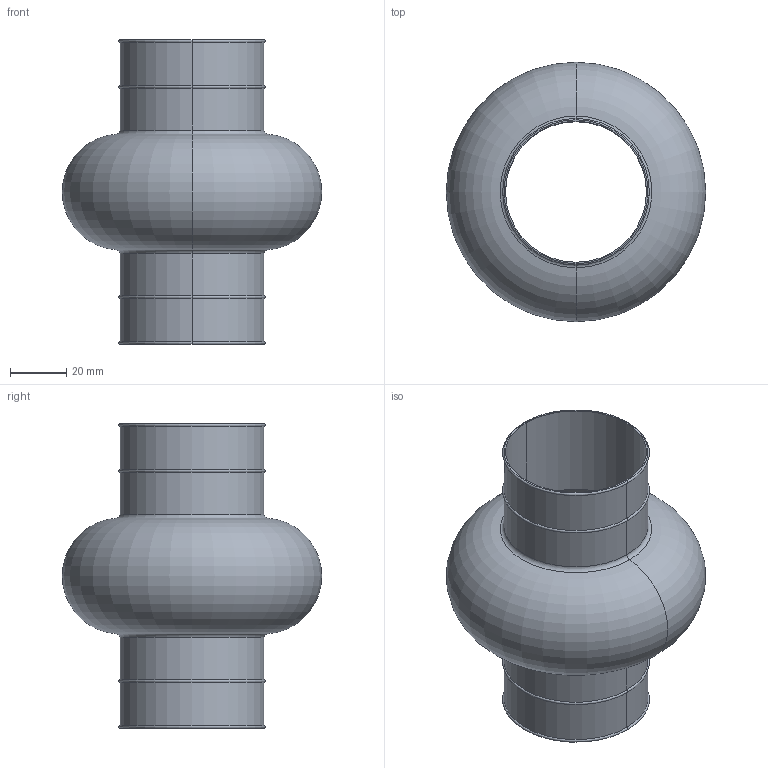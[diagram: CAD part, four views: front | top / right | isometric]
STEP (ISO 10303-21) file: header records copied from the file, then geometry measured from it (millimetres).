
FILE_DESCRIPTION (( 'STEP AP203' ), '1' );
FILE_NAME ('65280.W0050.step', '2018-06-20T18:12:49', ( '' ), ( '' ), 'SwSTEP 2.0', 'SolidWorks 2017', '' );
FILE_SCHEMA (( 'CONFIG_CONTROL_DESIGN' ));
Length unit declared in the file: millimetre
Products named in the file (1): 65280.W0050
Bounding box: 92 x 92 x 108 mm (x, y, z)
Volume: 13461.8 mm3; surface area: 52618.8 mm2
Topology: 1 solids, 1 shells, 30 faces, 60 edges, 32 vertices
Faces by surface type: torus 16, cylinder 12, plane 2
Entity records: 861 total; most frequent: DIRECTION 170, CARTESIAN_POINT 123, ORIENTED_EDGE 120, AXIS2_PLACEMENT_3D 79, EDGE_CURVE 60, CIRCLE 48, VERTEX_POINT 32, EDGE_LOOP 32
